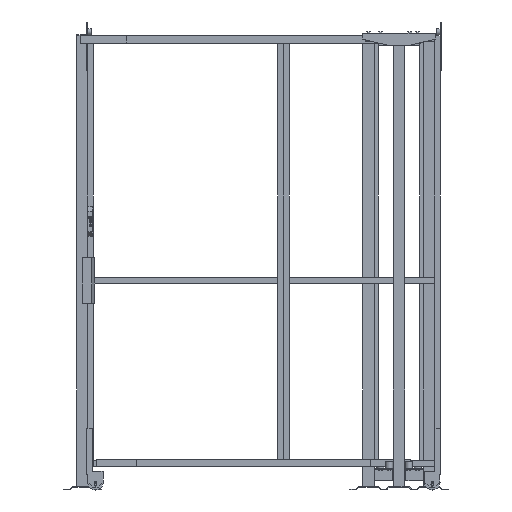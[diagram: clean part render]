
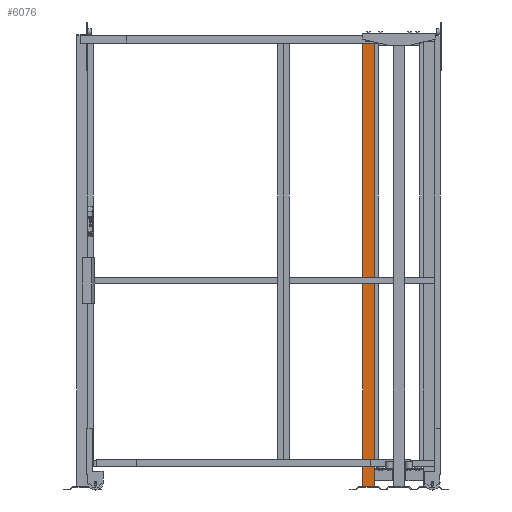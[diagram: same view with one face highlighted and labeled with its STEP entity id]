
A CAD part, front view. The second image highlights one B-rep face of the part: STEP entity #6076.
In plain terms, the highlighted planar face has unit normal (0, -1, 0) as drawn and (-1, 0, 0) by its records, which use the part's own axes.
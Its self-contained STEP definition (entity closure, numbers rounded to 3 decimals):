
#593=FACE_OUTER_BOUND('',#1060,.T.);
#1060=EDGE_LOOP('',(#3844,#3845,#3846,#3847));
#1590=VERTEX_POINT('',#13498);
#1591=VERTEX_POINT('',#13500);
#1594=VERTEX_POINT('',#13507);
#1595=VERTEX_POINT('',#13509);
#2464=EDGE_CURVE('',#1590,#1591,#7356,.T.);
#2468=EDGE_CURVE('',#1594,#1595,#7360,.T.);
#2470=EDGE_CURVE('',#1591,#1594,#7362,.T.);
#2472=EDGE_CURVE('',#1590,#1595,#7364,.T.);
#3844=ORIENTED_EDGE('',*,*,#2472,.T.);
#3845=ORIENTED_EDGE('',*,*,#2468,.F.);
#3846=ORIENTED_EDGE('',*,*,#2470,.F.);
#3847=ORIENTED_EDGE('',*,*,#2464,.F.);
#5653=PLANE('',#9429);
#6076=ADVANCED_FACE('',(#593),#5653,.F.);
#7356=LINE('',#13501,#8520);
#7360=LINE('',#13510,#8524);
#7362=LINE('',#13513,#8526);
#7364=LINE('',#13516,#8528);
#8520=VECTOR('',#10591,1.);
#8524=VECTOR('',#10597,1.);
#8526=VECTOR('',#10601,1.);
#8528=VECTOR('',#10605,1.);
#9429=AXIS2_PLACEMENT_3D('',#13515,#10603,#10604);
#10591=DIRECTION('',(0.,-1.,0.));
#10597=DIRECTION('',(0.,1.,0.));
#10601=DIRECTION('',(0.,0.,-1.));
#10603=DIRECTION('center_axis',(1.,0.,0.));
#10604=DIRECTION('ref_axis',(0.,0.,-1.));
#10605=DIRECTION('',(0.,0.,-1.));
#13498=CARTESIAN_POINT('',(-30.,30.,2320.));
#13500=CARTESIAN_POINT('',(-30.,-30.,2320.));
#13501=CARTESIAN_POINT('',(-30.,0.,2320.));
#13507=CARTESIAN_POINT('',(-30.,-30.,20.));
#13509=CARTESIAN_POINT('',(-30.,30.,20.));
#13510=CARTESIAN_POINT('',(-30.,0.,20.));
#13513=CARTESIAN_POINT('',(-30.,-30.,1170.));
#13515=CARTESIAN_POINT('Origin',(-30.,0.,
1170.));
#13516=CARTESIAN_POINT('',(-30.,30.,1170.));
